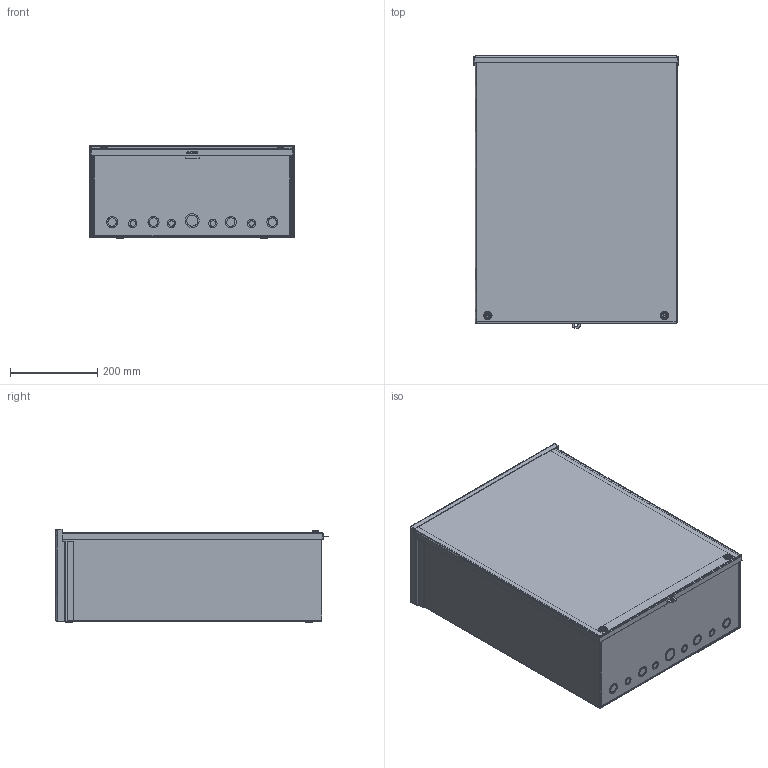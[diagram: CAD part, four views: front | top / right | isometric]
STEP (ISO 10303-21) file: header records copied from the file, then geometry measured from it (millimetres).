
FILE_DESCRIPTION((''),'2;1');
FILE_NAME('D:\scratch\ideas\a24r188.stp','2007-02-09T06:54:45',( 'User'),('SDRC'),'I-DEAS Master Series 9','UNIX','Yes');
FILE_SCHEMA(('AUTOMOTIVE_DESIGN { 1 0 10303 214 0 1 1 1 }'));
Length unit declared in the file: inch
Products named in the file (7): 38580; 3rsc_wmt_body_24x18x8; 3rsc_top_18x8; 3rsc_bottom_18x8; 3rsc_body_24x18x8; 3rsc_cover_24x18; 78124001
Assembly tree (6 placements, depth 3):
  38580
    3rsc_wmt_body_24x18x8
      3rsc_top_18x8
      3rsc_bottom_18x8
      3rsc_body_24x18x8
    3rsc_cover_24x18
    78124001
Bounding box: 469.9 x 625.55 x 214.63 mm (x, y, z)
Volume: 1514959.4 mm3; surface area: 2180235.5 mm2
Topology: 5 solids, 5 shells, 291 faces, 697 edges, 444 vertices
Faces by surface type: bspline 291
Entity records: 9180 total; most frequent: CARTESIAN_POINT 4667, ORIENTED_EDGE 1394, EDGE_CURVE 697, VERTEX_POINT 444, EDGE_LOOP 347, QUASI_UNIFORM_CURVE 330, FACE_OUTER_BOUND 291, ADVANCED_FACE 291
